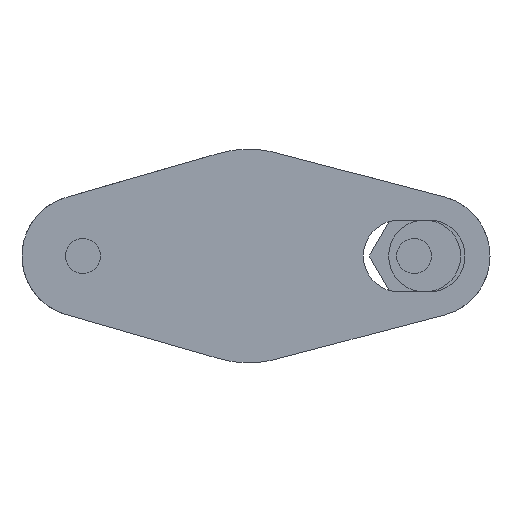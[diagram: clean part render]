
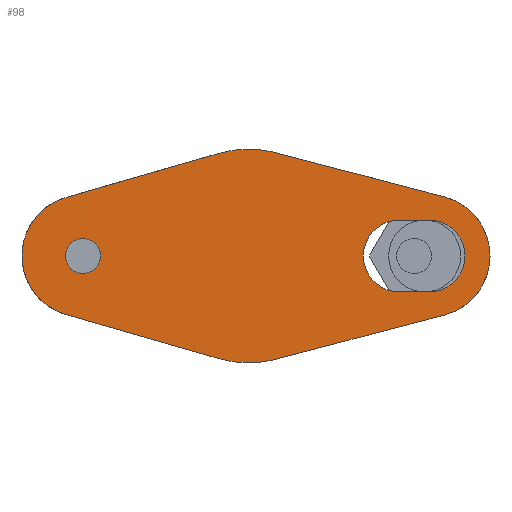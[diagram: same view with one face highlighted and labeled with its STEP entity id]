
A CAD part, front view. The second image highlights one B-rep face of the part: STEP entity #98.
In plain terms, the highlighted planar face has unit normal (0, -1, 0).
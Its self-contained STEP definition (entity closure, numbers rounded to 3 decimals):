
#98=ADVANCED_FACE('',(#183,#184,#185),#186,.F.);
#183=FACE_OUTER_BOUND('',#327,.T.);
#184=FACE_BOUND('',#328,.T.);
#185=FACE_BOUND('',#329,.T.);
#186=PLANE('',#330);
#327=EDGE_LOOP('',(#561,#562,#563,#564,#565,#566,#567,#568,#569,#570));
#328=EDGE_LOOP('',(#571,#572));
#329=EDGE_LOOP('',(#573,#574,#575,#576));
#330=AXIS2_PLACEMENT_3D('',#577,#578,#579);
#561=ORIENTED_EDGE('',*,*,#1024,.F.);
#562=ORIENTED_EDGE('',*,*,#1025,.F.);
#563=ORIENTED_EDGE('',*,*,#1022,.F.);
#564=ORIENTED_EDGE('',*,*,#1018,.F.);
#565=ORIENTED_EDGE('',*,*,#961,.F.);
#566=ORIENTED_EDGE('',*,*,#1016,.F.);
#567=ORIENTED_EDGE('',*,*,#1013,.F.);
#568=ORIENTED_EDGE('',*,*,#1009,.F.);
#569=ORIENTED_EDGE('',*,*,#1026,.F.);
#570=ORIENTED_EDGE('',*,*,#992,.F.);
#571=ORIENTED_EDGE('',*,*,#971,.F.);
#572=ORIENTED_EDGE('',*,*,#1027,.F.);
#573=ORIENTED_EDGE('',*,*,#1028,.T.);
#574=ORIENTED_EDGE('',*,*,#1029,.T.);
#575=ORIENTED_EDGE('',*,*,#1030,.T.);
#576=ORIENTED_EDGE('',*,*,#1031,.T.);
#577=CARTESIAN_POINT('',(19.0,0.0,0.0));
#578=DIRECTION('',(-0.0,1.0,0.0));
#579=DIRECTION('',(1.0,0.0,0.0));
#961=EDGE_CURVE('',#1120,#1123,#1124,.T.);
#971=EDGE_CURVE('',#1142,#1143,#1144,.T.);
#992=EDGE_CURVE('',#1180,#1182,#1183,.T.);
#1009=EDGE_CURVE('',#1210,#1212,#1213,.T.);
#1013=EDGE_CURVE('',#1212,#1219,#1220,.T.);
#1016=EDGE_CURVE('',#1219,#1120,#1223,.T.);
#1018=EDGE_CURVE('',#1123,#1226,#1227,.T.);
#1022=EDGE_CURVE('',#1226,#1232,#1233,.T.);
#1024=EDGE_CURVE('',#1235,#1180,#1236,.T.);
#1025=EDGE_CURVE('',#1232,#1235,#1237,.T.);
#1026=EDGE_CURVE('',#1182,#1210,#1238,.T.);
#1027=EDGE_CURVE('',#1143,#1142,#1239,.T.);
#1028=EDGE_CURVE('',#1240,#1241,#1242,.T.);
#1029=EDGE_CURVE('',#1241,#1243,#1244,.T.);
#1030=EDGE_CURVE('',#1243,#1245,#1246,.T.);
#1031=EDGE_CURVE('',#1245,#1240,#1247,.T.);
#1120=VERTEX_POINT('',#1385);
#1123=VERTEX_POINT('',#1389);
#1124=CIRCLE('',#1390,12.25);
#1142=VERTEX_POINT('',#1411);
#1143=VERTEX_POINT('',#1412);
#1144=CIRCLE('',#1413,2.0);
#1180=VERTEX_POINT('',#1469);
#1182=VERTEX_POINT('',#1472);
#1183=CIRCLE('',#1473,12.25);
#1210=VERTEX_POINT('',#1517);
#1212=VERTEX_POINT('',#1520);
#1213=CIRCLE('',#1521,7.0);
#1219=VERTEX_POINT('',#1530);
#1220=LINE('',#1531,#1532);
#1223=CIRCLE('',#1536,12.25);
#1226=VERTEX_POINT('',#1540);
#1227=LINE('',#1541,#1542);
#1232=VERTEX_POINT('',#1559);
#1233=CIRCLE('',#1560,7.);
#1235=VERTEX_POINT('',#1563);
#1236=CIRCLE('',#1564,12.25);
#1237=LINE('',#1565,#1566);
#1238=LINE('',#1567,#1568);
#1239=CIRCLE('',#1569,2.0);
#1240=VERTEX_POINT('',#1570);
#1241=VERTEX_POINT('',#1571);
#1242=CIRCLE('',#1572,4.125);
#1243=VERTEX_POINT('',#1573);
#1244=LINE('',#1574,#1575);
#1245=VERTEX_POINT('',#1576);
#1246=CIRCLE('',#1577,4.125);
#1247=LINE('',#1578,#1579);
#1385=CARTESIAN_POINT('',(19.0,0.0,12.25));
#1389=CARTESIAN_POINT('',(22.107,0.0,11.849));
#1390=AXIS2_PLACEMENT_3D('',#1795,#1796,#1797);
#1411=CARTESIAN_POINT('',(0.0,0.0,-2.0));
#1412=CARTESIAN_POINT('',(0.,0.0,2.0));
#1413=AXIS2_PLACEMENT_3D('',#1819,#1820,#1821);
#1469=CARTESIAN_POINT('',(19.0,0.0,-12.25));
#1472=CARTESIAN_POINT('',(15.615,0.0,-11.773));
#1473=AXIS2_PLACEMENT_3D('',#1857,#1858,#1859);
#1517=CARTESIAN_POINT('',(-1.934,0.0,-6.727));
#1520=CARTESIAN_POINT('',(-1.934,0.0,6.727));
#1521=AXIS2_PLACEMENT_3D('',#1889,#1890,#1891);
#1530=CARTESIAN_POINT('',(15.615,0.0,11.773));
#1531=CARTESIAN_POINT('',(15.615,0.0,11.773));
#1532=VECTOR('',#1895,1000.0);
#1536=AXIS2_PLACEMENT_3D('',#1900,#1901,#1902);
#1540=CARTESIAN_POINT('',(41.475,0.0,6.771));
#1541=CARTESIAN_POINT('',(22.107,0.0,11.849));
#1542=VECTOR('',#1904,1000.0);
#1559=CARTESIAN_POINT('',(41.475,0.0,-6.771));
#1560=AXIS2_PLACEMENT_3D('',#1907,#1908,#1909);
#1563=CARTESIAN_POINT('',(22.107,0.0,-11.849));
#1564=AXIS2_PLACEMENT_3D('',#1911,#1912,#1913);
#1565=CARTESIAN_POINT('',(22.107,0.0,-11.849));
#1566=VECTOR('',#1914,1000.0);
#1567=CARTESIAN_POINT('',(15.615,0.0,-11.773));
#1568=VECTOR('',#1915,1000.0);
#1569=AXIS2_PLACEMENT_3D('',#1916,#1917,#1918);
#1570=CARTESIAN_POINT('',(36.3,0.0,-4.125));
#1571=CARTESIAN_POINT('',(36.3,0.0,4.125));
#1572=AXIS2_PLACEMENT_3D('',#1919,#1920,#1921);
#1573=CARTESIAN_POINT('',(39.7,0.0,4.125));
#1574=CARTESIAN_POINT('',(36.3,0.0,4.125));
#1575=VECTOR('',#1922,1000.0);
#1576=CARTESIAN_POINT('',(39.7,0.0,-4.125));
#1577=AXIS2_PLACEMENT_3D('',#1923,#1924,#1925);
#1578=CARTESIAN_POINT('',(36.3,0.0,-4.125));
#1579=VECTOR('',#1926,1000.0);
#1795=CARTESIAN_POINT('',(19.0,0.0,0.0));
#1796=DIRECTION('',(0.0,1.0,0.0));
#1797=DIRECTION('',(0.0,0.0,1.0));
#1819=CARTESIAN_POINT('',(0.0,0.0,0.0));
#1820=DIRECTION('',(0.0,-1.0,0.0));
#1821=DIRECTION('',(0.0,0.0,1.0));
#1857=CARTESIAN_POINT('',(19.0,0.0,0.0));
#1858=DIRECTION('',(0.0,1.0,0.0));
#1859=DIRECTION('',(0.0,0.0,1.0));
#1889=CARTESIAN_POINT('',(0.0,0.0,0.0));
#1890=DIRECTION('',(0.0,1.0,0.0));
#1891=DIRECTION('',(0.0,0.0,1.0));
#1895=DIRECTION('',(0.961,-0.0,0.276));
#1900=CARTESIAN_POINT('',(19.0,0.0,0.0));
#1901=DIRECTION('',(0.0,1.0,0.0));
#1902=DIRECTION('',(0.0,0.0,1.0));
#1904=DIRECTION('',(0.967,0.0,-0.254));
#1907=CARTESIAN_POINT('',(39.7,0.0,0.0));
#1908=DIRECTION('',(0.0,1.0,0.0));
#1909=DIRECTION('',(0.0,0.0,1.0));
#1911=CARTESIAN_POINT('',(19.0,0.0,0.0));
#1912=DIRECTION('',(0.0,1.0,0.0));
#1913=DIRECTION('',(0.0,0.0,1.0));
#1914=DIRECTION('',(-0.967,-0.0,-0.254));
#1915=DIRECTION('',(-0.961,0.0,0.276));
#1916=CARTESIAN_POINT('',(0.0,0.0,0.0));
#1917=DIRECTION('',(0.0,-1.0,0.0));
#1918=DIRECTION('',(0.0,0.0,1.0));
#1919=CARTESIAN_POINT('',(36.3,0.0,0.0));
#1920=DIRECTION('',(0.0,1.0,0.0));
#1921=DIRECTION('',(0.0,0.0,1.0));
#1922=DIRECTION('',(1.0,0.0,0.0));
#1923=CARTESIAN_POINT('',(39.7,0.0,0.0));
#1924=DIRECTION('',(0.0,1.0,0.0));
#1925=DIRECTION('',(0.0,0.0,1.0));
#1926=DIRECTION('',(-1.0,-0.0,-0.0));
